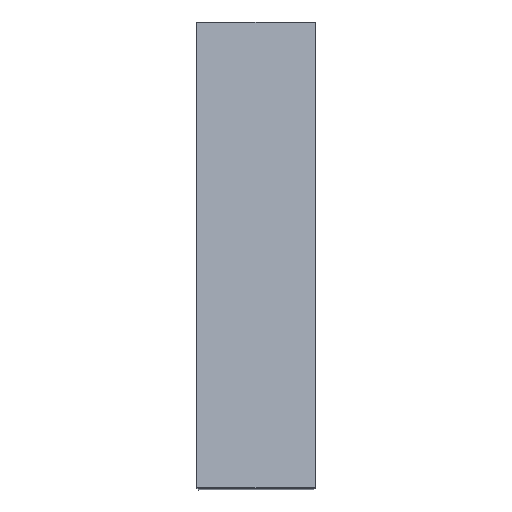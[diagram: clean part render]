
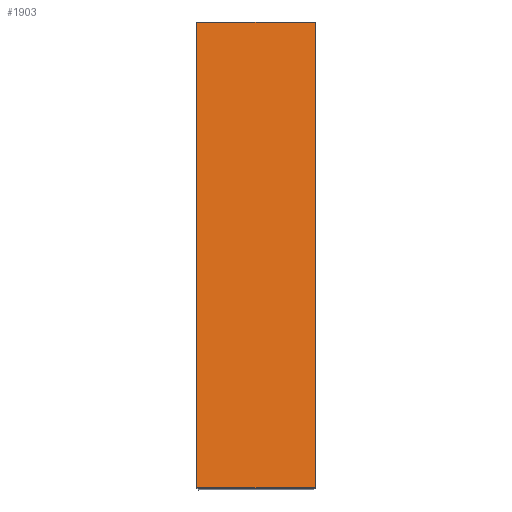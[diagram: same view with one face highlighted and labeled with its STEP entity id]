
A CAD part, top view. The second image highlights one B-rep face of the part: STEP entity #1903.
In plain terms, the highlighted planar face has unit normal (0.492, 0, 0.87).
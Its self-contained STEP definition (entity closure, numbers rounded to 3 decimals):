
#91 = ORIENTED_EDGE ( 'NONE', *, *, #1212, .T. ) ;
#100 = VECTOR ( 'NONE', #793, 1000. ) ;
#175 = LINE ( 'NONE', #1735, #100 ) ;
#224 = DIRECTION ( 'NONE',  ( 0.87, 0., -0.492 ) ) ;
#256 = ORIENTED_EDGE ( 'NONE', *, *, #950, .T. ) ;
#283 = EDGE_LOOP ( 'NONE', ( #256, #91, #1633, #2784 ) ) ;
#353 = EDGE_CURVE ( 'NONE', #2128, #1369, #2889, .T. ) ;
#565 = PLANE ( 'NONE',  #944 ) ;
#598 = VECTOR ( 'NONE', #2109, 1000. ) ;
#688 = CARTESIAN_POINT ( 'NONE',  ( 26.8, 106., -15.163 ) ) ;
#730 = CARTESIAN_POINT ( 'NONE',  ( 26.8, 106., -15.163 ) ) ;
#781 = LINE ( 'NONE', #1908, #598 ) ;
#793 = DIRECTION ( 'NONE',  ( 0., -1., 0. ) ) ;
#931 = VERTEX_POINT ( 'NONE', #2931 ) ;
#944 = AXIS2_PLACEMENT_3D ( 'NONE', #2650, #2631, #2893 ) ;
#950 = EDGE_CURVE ( 'NONE', #2128, #1450, #175, .T. ) ;
#1072 = VECTOR ( 'NONE', #224, 1000. ) ;
#1212 = EDGE_CURVE ( 'NONE', #1450, #931, #781, .T. ) ;
#1288 = CARTESIAN_POINT ( 'NONE',  ( 26.8, 106., -15.163 ) ) ;
#1369 = VERTEX_POINT ( 'NONE', #730 ) ;
#1437 = CARTESIAN_POINT ( 'NONE',  ( 0., 0.3, 0. ) ) ;
#1450 = VERTEX_POINT ( 'NONE', #1437 ) ;
#1633 = ORIENTED_EDGE ( 'NONE', *, *, #2938, .F. ) ;
#1735 = CARTESIAN_POINT ( 'NONE',  ( 0., 106., 0. ) ) ;
#1826 = VECTOR ( 'NONE', #1836, 1000. ) ;
#1836 = DIRECTION ( 'NONE',  ( 0., -1., 0. ) ) ;
#1903 = ADVANCED_FACE ( 'NONE', ( #2613 ), #565, .F. ) ;
#1908 = CARTESIAN_POINT ( 'NONE',  ( 26.8, 0.3, -15.163 ) ) ;
#1929 = LINE ( 'NONE', #688, #1826 ) ;
#2109 = DIRECTION ( 'NONE',  ( 0.87, 0., -0.492 ) ) ;
#2128 = VERTEX_POINT ( 'NONE', #2781 ) ;
#2613 = FACE_OUTER_BOUND ( 'NONE', #283, .T. ) ;
#2631 = DIRECTION ( 'NONE',  ( -0.492, 0., -0.87 ) ) ;
#2650 = CARTESIAN_POINT ( 'NONE',  ( 26.8, 106., -15.163 ) ) ;
#2781 = CARTESIAN_POINT ( 'NONE',  ( 0., 106., 0. ) ) ;
#2784 = ORIENTED_EDGE ( 'NONE', *, *, #353, .F. ) ;
#2889 = LINE ( 'NONE', #1288, #1072 ) ;
#2893 = DIRECTION ( 'NONE',  ( -0.87, 0., 0.492 ) ) ;
#2931 = CARTESIAN_POINT ( 'NONE',  ( 26.8, 0.3, -15.163 ) ) ;
#2938 = EDGE_CURVE ( 'NONE', #1369, #931, #1929, .T. ) ;
